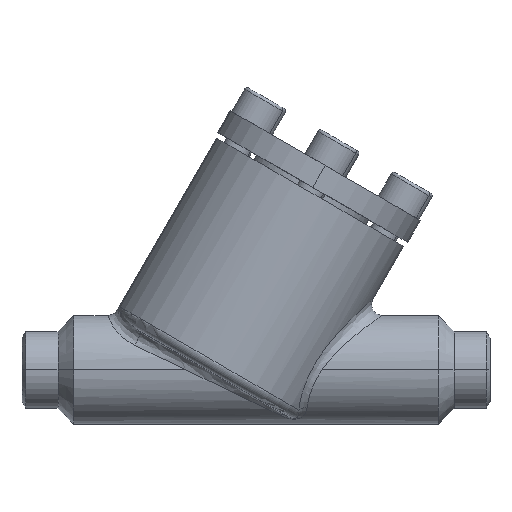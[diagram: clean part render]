
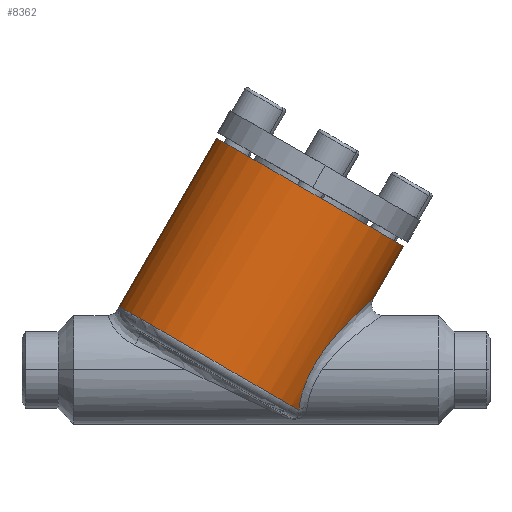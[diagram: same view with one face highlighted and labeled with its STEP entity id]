
A CAD part, top view. The second image highlights one B-rep face of the part: STEP entity #8362.
In plain terms, the highlighted cylindrical face has radius 30 mm (diameter 60 mm), a partial arc.
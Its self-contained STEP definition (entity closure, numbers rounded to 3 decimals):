
#1541 = CARTESIAN_POINT ( 'NONE',  ( 76.85, -11.183, 11.847 ) ) ;
#2726 = CIRCLE ( 'NONE', #2727, 30. ) ;
#2727 = AXIS2_PLACEMENT_3D ( 'NONE', #2728, #2729, #2730 ) ;
#2728 = CARTESIAN_POINT ( 'NONE',  ( 52.981, 2.598, 0. ) ) ;
#2729 = DIRECTION ( 'NONE',  ( 0.5, 0.866, 0. ) ) ;
#2730 = DIRECTION ( 'NONE',  ( -0.866, 0.5, 0. ) ) ;
#2845 = CARTESIAN_POINT ( 'NONE',  ( 54., 64.363, 0. ) ) ;
#3021 = CIRCLE ( 'NONE', #3022, 30. ) ;
#3022 = AXIS2_PLACEMENT_3D ( 'NONE', #3024, #3025, #3026 ) ;
#3024 = CARTESIAN_POINT ( 'NONE',  ( 79.981, 49.363, 0. ) ) ;
#3025 = DIRECTION ( 'NONE',  ( 0.5, 0.866, 0. ) ) ;
#3026 = DIRECTION ( 'NONE',  ( -0.866, 0.5, 0. ) ) ;
#4040 = CARTESIAN_POINT ( 'NONE',  ( 97.438, 19.6, 0. ) ) ;
#4058 = LINE ( 'NONE', #4059, #4060 ) ;
#4059 = CARTESIAN_POINT ( 'NONE',  ( 54., 64.363, 0. ) ) ;
#4060 = VECTOR ( 'NONE', #4061, 1000. ) ;
#4061 = DIRECTION ( 'NONE',  ( -0.5, -0.866, 0. ) ) ;
#4983 = B_SPLINE_CURVE_WITH_KNOTS ( 'NONE', 3,
 ( #4984, #4985, #4986, #4987, #4990, #4991, #4992, #4993, #4994, #4995, #4996, #4997, #4998, #4999, #5000, #5001, #5002, #5003, #5004, #5005, #5006, #5007, #5008, #5009, #5010, #5011, #5012, #5013, #5014, #5015, #5016, #5017, #5018, #5019, #5020, #5021, #5022, #5023, #5024, #5025, #5026, #5027, #5028, #5029, #5030, #5031, #5032, #5033 ),
 .UNSPECIFIED., .F., .F.,
 ( 4, 2, 2, 2, 2, 2, 2, 2, 2, 2, 2, 2, 2, 2, 2, 2, 2, 2, 2, 2, 2, 2, 2, 4 ),
 ( 0., 0.001, 0.003, 0.006, 0.007, 0.009, 0.012, 0.013, 0.015, 0.018, 0.021, 0.022, 0.023, 0.029, 0.032, 0.035, 0.037, 0.038, 0.041, 0.043, 0.044, 0.045, 0.046, 0.047 ),
 .UNSPECIFIED. ) ;
#4984 = CARTESIAN_POINT ( 'NONE',  ( 76.85, -11.183, 11.847 ) ) ;
#4985 = CARTESIAN_POINT ( 'NONE',  ( 76.899, -10.819, 12.172 ) ) ;
#4986 = CARTESIAN_POINT ( 'NONE',  ( 76.955, -10.443, 12.48 ) ) ;
#4987 = CARTESIAN_POINT ( 'NONE',  ( 77.086, -9.668, 13.062 ) ) ;
#4990 = CARTESIAN_POINT ( 'NONE',  ( 77.161, -9.268, 13.338 ) ) ;
#4991 = CARTESIAN_POINT ( 'NONE',  ( 77.413, -8.051, 14.104 ) ) ;
#4992 = CARTESIAN_POINT ( 'NONE',  ( 77.62, -7.214, 14.541 ) ) ;
#4993 = CARTESIAN_POINT ( 'NONE',  ( 77.997, -5.928, 15.093 ) ) ;
#4994 = CARTESIAN_POINT ( 'NONE',  ( 78.134, -5.494, 15.261 ) ) ;
#4995 = CARTESIAN_POINT ( 'NONE',  ( 78.432, -4.617, 15.562 ) ) ;
#4996 = CARTESIAN_POINT ( 'NONE',  ( 78.593, -4.172, 15.696 ) ) ;
#4997 = CARTESIAN_POINT ( 'NONE',  ( 79.107, -2.851, 16.045 ) ) ;
#4998 = CARTESIAN_POINT ( 'NONE',  ( 79.489, -1.977, 16.208 ) ) ;
#4999 = CARTESIAN_POINT ( 'NONE',  ( 80.122, -0.679, 16.365 ) ) ;
#5000 = CARTESIAN_POINT ( 'NONE',  ( 80.343, -0.248, 16.402 ) ) ;
#5001 = CARTESIAN_POINT ( 'NONE',  ( 80.803, 0.61, 16.449 ) ) ;
#5002 = CARTESIAN_POINT ( 'NONE',  ( 81.043, 1.037, 16.458 ) ) ;
#5003 = CARTESIAN_POINT ( 'NONE',  ( 81.779, 2.297, 16.445 ) ) ;
#5004 = CARTESIAN_POINT ( 'NONE',  ( 82.297, 3.112, 16.384 ) ) ;
#5005 = CARTESIAN_POINT ( 'NONE',  ( 83.374, 4.703, 16.171 ) ) ;
#5006 = CARTESIAN_POINT ( 'NONE',  ( 83.934, 5.479, 16.019 ) ) ;
#5007 = CARTESIAN_POINT ( 'NONE',  ( 84.801, 6.617, 15.726 ) ) ;
#5008 = CARTESIAN_POINT ( 'NONE',  ( 85.095, 6.992, 15.618 ) ) ;
#5009 = CARTESIAN_POINT ( 'NONE',  ( 85.684, 7.728, 15.382 ) ) ;
#5010 = CARTESIAN_POINT ( 'NONE',  ( 85.981, 8.09, 15.254 ) ) ;
#5011 = CARTESIAN_POINT ( 'NONE',  ( 87.472, 9.87, 14.566 ) ) ;
#5012 = CARTESIAN_POINT ( 'NONE',  ( 88.689, 11.203, 13.865 ) ) ;
#5013 = CARTESIAN_POINT ( 'NONE',  ( 90.504, 13.088, 12.555 ) ) ;
#5014 = CARTESIAN_POINT ( 'NONE',  ( 91.099, 13.689, 12.08 ) ) ;
#5015 = CARTESIAN_POINT ( 'NONE',  ( 92.261, 14.836, 11.045 ) ) ;
#5016 = CARTESIAN_POINT ( 'NONE',  ( 92.827, 15.381, 10.484 ) ) ;
#5017 = CARTESIAN_POINT ( 'NONE',  ( 93.643, 16.155, 9.565 ) ) ;
#5018 = CARTESIAN_POINT ( 'NONE',  ( 93.91, 16.406, 9.246 ) ) ;
#5019 = CARTESIAN_POINT ( 'NONE',  ( 94.43, 16.891, 8.577 ) ) ;
#5020 = CARTESIAN_POINT ( 'NONE',  ( 94.683, 17.124, 8.227 ) ) ;
#5021 = CARTESIAN_POINT ( 'NONE',  ( 95.404, 17.786, 7.147 ) ) ;
#5022 = CARTESIAN_POINT ( 'NONE',  ( 95.84, 18.18, 6.378 ) ) ;
#5023 = CARTESIAN_POINT ( 'NONE',  ( 96.402, 18.683, 5.129 ) ) ;
#5024 = CARTESIAN_POINT ( 'NONE',  ( 96.575, 18.837, 4.694 ) ) ;
#5025 = CARTESIAN_POINT ( 'NONE',  ( 96.877, 19.105, 3.803 ) ) ;
#5026 = CARTESIAN_POINT ( 'NONE',  ( 97.006, 19.22, 3.348 ) ) ;
#5027 = CARTESIAN_POINT ( 'NONE',  ( 97.217, 19.406, 2.42 ) ) ;
#5028 = CARTESIAN_POINT ( 'NONE',  ( 97.299, 19.478, 1.946 ) ) ;
#5029 = CARTESIAN_POINT ( 'NONE',  ( 97.382, 19.551, 1.218 ) ) ;
#5030 = CARTESIAN_POINT ( 'NONE',  ( 97.403, 19.57, 0.973 ) ) ;
#5031 = CARTESIAN_POINT ( 'NONE',  ( 97.431, 19.594, 0.485 ) ) ;
#5032 = CARTESIAN_POINT ( 'NONE',  ( 97.438, 19.6, 0.242 ) ) ;
#5033 = CARTESIAN_POINT ( 'NONE',  ( 97.438, 19.6, 0. ) ) ;
#5112 = CARTESIAN_POINT ( 'NONE',  ( 27., 17.598, 0. ) ) ;
#5534 = FACE_OUTER_BOUND ( 'NONE', #8146, .T. ) ;
#5535 = CYLINDRICAL_SURFACE ( 'NONE', #5536, 30. ) ;
#5536 = AXIS2_PLACEMENT_3D ( 'NONE', #5537, #5538, #5539 ) ;
#5537 = CARTESIAN_POINT ( 'NONE',  ( 79.981, 49.363, 0. ) ) ;
#5538 = DIRECTION ( 'NONE',  ( -0.5, -0.866, 0. ) ) ;
#5539 = DIRECTION ( 'NONE',  ( 0.866, -0.5, 0. ) ) ;
#6931 = VERTEX_POINT ( 'NONE', #12869 ) ;
#7138 = VERTEX_POINT ( 'NONE', #2845 ) ;
#7340 = EDGE_CURVE ( 'NONE', #7138, #6931, #3021, .T. ) ;
#7675 = ORIENTED_EDGE ( 'NONE', *, *, #7340, .F. ) ;
#8146 = EDGE_LOOP ( 'NONE', ( #7675, #13228, #13193, #12570, #11564 ) ) ;
#8362 = ADVANCED_FACE ( 'NONE', ( #5534 ), #5535, .T. ) ;
#11226 = EDGE_CURVE ( 'NONE', #6931, #12031, #12870, .T. ) ;
#11564 = ORIENTED_EDGE ( 'NONE', *, *, #11226, .F. ) ;
#12031 = VERTEX_POINT ( 'NONE', #4040 ) ;
#12234 = EDGE_CURVE ( 'NONE', #13164, #12031, #4983, .T. ) ;
#12570 = ORIENTED_EDGE ( 'NONE', *, *, #12234, .T. ) ;
#12869 = CARTESIAN_POINT ( 'NONE',  ( 105.962, 34.363, 0. ) ) ;
#12870 = LINE ( 'NONE', #12871, #12872 ) ;
#12871 = CARTESIAN_POINT ( 'NONE',  ( 105.962, 34.363, 0. ) ) ;
#12872 = VECTOR ( 'NONE', #12873, 1000. ) ;
#12873 = DIRECTION ( 'NONE',  ( -0.5, -0.866, 0. ) ) ;
#13164 = VERTEX_POINT ( 'NONE', #1541 ) ;
#13174 = EDGE_CURVE ( 'NONE', #14906, #13164, #2726, .T. ) ;
#13193 = ORIENTED_EDGE ( 'NONE', *, *, #13174, .T. ) ;
#13213 = EDGE_CURVE ( 'NONE', #7138, #14906, #4058, .T. ) ;
#13228 = ORIENTED_EDGE ( 'NONE', *, *, #13213, .T. ) ;
#14906 = VERTEX_POINT ( 'NONE', #5112 ) ;
